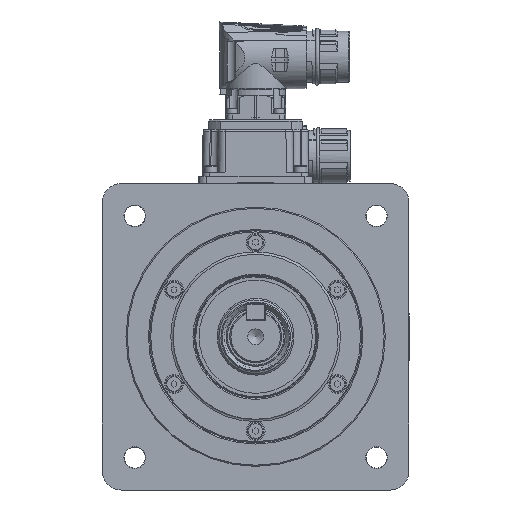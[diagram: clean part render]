
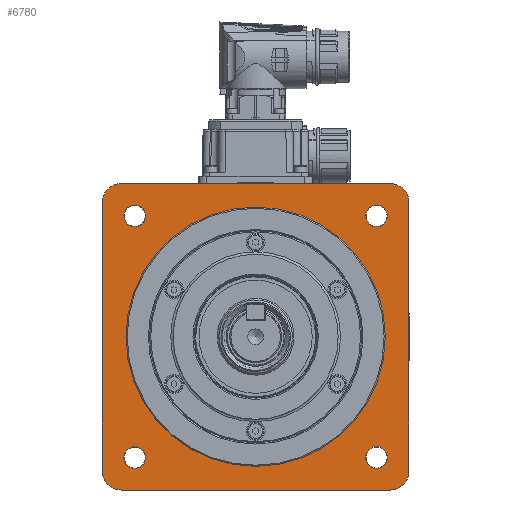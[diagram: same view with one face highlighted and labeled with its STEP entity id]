
A CAD part, front view. The second image highlights one B-rep face of the part: STEP entity #6780.
In plain terms, the highlighted planar face has unit normal (0, -1, 0).
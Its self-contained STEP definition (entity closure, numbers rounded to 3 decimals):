
#6780 = ADVANCED_FACE( '', ( #14795, #14796, #14797, #14798, #14799, #14800 ), #14801, .F. );
#14795 = FACE_BOUND( '', #32939, .T. );
#14796 = FACE_OUTER_BOUND( '', #32940, .T. );
#14797 = FACE_BOUND( '', #32941, .T. );
#14798 = FACE_BOUND( '', #32942, .T. );
#14799 = FACE_BOUND( '', #32943, .T. );
#14800 = FACE_BOUND( '', #32944, .T. );
#14801 = PLANE( '', #32945 );
#32939 = EDGE_LOOP( '', ( #54243 ) );
#32940 = EDGE_LOOP( '', ( #54244, #54245, #54246, #54247, #54248, #54249, #54250, #54251 ) );
#32941 = EDGE_LOOP( '', ( #54252 ) );
#32942 = EDGE_LOOP( '', ( #54253 ) );
#32943 = EDGE_LOOP( '', ( #54254 ) );
#32944 = EDGE_LOOP( '', ( #54255 ) );
#32945 = AXIS2_PLACEMENT_3D( '', #54256, #54257, #54258 );
#54243 = ORIENTED_EDGE( '', *, *, #65482, .F. );
#54244 = ORIENTED_EDGE( '', *, *, #66619, .F. );
#54245 = ORIENTED_EDGE( '', *, *, #64118, .T. );
#54246 = ORIENTED_EDGE( '', *, *, #60647, .F. );
#54247 = ORIENTED_EDGE( '', *, *, #64503, .T. );
#54248 = ORIENTED_EDGE( '', *, *, #66267, .F. );
#54249 = ORIENTED_EDGE( '', *, *, #66544, .T. );
#54250 = ORIENTED_EDGE( '', *, *, #66620, .F. );
#54251 = ORIENTED_EDGE( '', *, *, #64447, .T. );
#54252 = ORIENTED_EDGE( '', *, *, #62940, .F. );
#54253 = ORIENTED_EDGE( '', *, *, #65138, .F. );
#54254 = ORIENTED_EDGE( '', *, *, #59812, .F. );
#54255 = ORIENTED_EDGE( '', *, *, #62488, .F. );
#54256 = CARTESIAN_POINT( '', ( 0., -15.51, 55. ) );
#54257 = DIRECTION( '', ( 0., 1., 0. ) );
#54258 = DIRECTION( '', ( 0., 0., 1. ) );
#59812 = EDGE_CURVE( '', #70045, #70045, #70046, .F. );
#60647 = EDGE_CURVE( '', #71453, #71456, #71457, .F. );
#62488 = EDGE_CURVE( '', #74516, #74516, #74517, .F. );
#62940 = EDGE_CURVE( '', #75216, #75216, #75217, .F. );
#64118 = EDGE_CURVE( '', #76901, #71456, #76902, .T. );
#64447 = EDGE_CURVE( '', #77338, #77336, #77339, .T. );
#64503 = EDGE_CURVE( '', #71453, #77411, #77413, .T. );
#65138 = EDGE_CURVE( '', #78248, #78248, #78249, .F. );
#65482 = EDGE_CURVE( '', #78680, #78680, #78681, .T. );
#66267 = EDGE_CURVE( '', #79632, #77411, #79635, .F. );
#66544 = EDGE_CURVE( '', #79632, #79965, #79967, .T. );
#66619 = EDGE_CURVE( '', #76901, #77336, #80049, .F. );
#66620 = EDGE_CURVE( '', #77338, #79965, #80050, .F. );
#70045 = VERTEX_POINT( '', #85381 );
#70046 = CIRCLE( '', #85382, 4.6 );
#71453 = VERTEX_POINT( '', #88833 );
#71456 = VERTEX_POINT( '', #88837 );
#71457 = CIRCLE( '', #88838, 8. );
#74516 = VERTEX_POINT( '', #95620 );
#74517 = CIRCLE( '', #95621, 4.6 );
#75216 = VERTEX_POINT( '', #97046 );
#75217 = CIRCLE( '', #97047, 4.6 );
#76901 = VERTEX_POINT( '', #100961 );
#76902 = LINE( '', #100962, #100963 );
#77336 = VERTEX_POINT( '', #101990 );
#77338 = VERTEX_POINT( '', #101993 );
#77339 = LINE( '', #101994, #101995 );
#77411 = VERTEX_POINT( '', #102111 );
#77413 = LINE( '', #102114, #102115 );
#78248 = VERTEX_POINT( '', #104003 );
#78249 = CIRCLE( '', #104004, 4.6 );
#78680 = VERTEX_POINT( '', #104944 );
#78681 = CIRCLE( '', #104945, 55. );
#79632 = VERTEX_POINT( '', #106990 );
#79635 = CIRCLE( '', #106994, 8. );
#79965 = VERTEX_POINT( '', #107613 );
#79967 = LINE( '', #107616, #107617 );
#80049 = CIRCLE( '', #107788, 8. );
#80050 = CIRCLE( '', #107789, 8. );
#85381 = CARTESIAN_POINT( '', ( 51.265, -15.51, -46.665 ) );
#85382 = AXIS2_PLACEMENT_3D( '', #113274, #113275, #113276 );
#88833 = CARTESIAN_POINT( '', ( -57., -15.51, -65. ) );
#88837 = CARTESIAN_POINT( '', ( -65., -15.51, -57. ) );
#88838 = AXIS2_PLACEMENT_3D( '', #114268, #114269, #114270 );
#95620 = CARTESIAN_POINT( '', ( 51.265, -15.51, 55.866 ) );
#95621 = AXIS2_PLACEMENT_3D( '', #116487, #116488, #116489 );
#97046 = CARTESIAN_POINT( '', ( -51.265, -15.51, 55.866 ) );
#97047 = AXIS2_PLACEMENT_3D( '', #117018, #117019, #117020 );
#100961 = CARTESIAN_POINT( '', ( -65., -15.51, 57. ) );
#100962 = CARTESIAN_POINT( '', ( -65., -15.51, 65. ) );
#100963 = VECTOR( '', #118333, 1000. );
#101990 = CARTESIAN_POINT( '', ( -57., -15.51, 65. ) );
#101993 = CARTESIAN_POINT( '', ( 57., -15.51, 65. ) );
#101994 = CARTESIAN_POINT( '', ( 65., -15.51, 65. ) );
#101995 = VECTOR( '', #118669, 1000. );
#102111 = CARTESIAN_POINT( '', ( 57., -15.51, -65. ) );
#102114 = CARTESIAN_POINT( '', ( -65., -15.51, -65. ) );
#102115 = VECTOR( '', #118740, 1000. );
#104003 = CARTESIAN_POINT( '', ( -51.265, -15.51, -46.665 ) );
#104004 = AXIS2_PLACEMENT_3D( '', #119391, #119392, #119393 );
#104944 = CARTESIAN_POINT( '', ( 0., -15.51, -55. ) );
#104945 = AXIS2_PLACEMENT_3D( '', #119728, #119729, #119730 );
#106990 = CARTESIAN_POINT( '', ( 65., -15.51, -57. ) );
#106994 = AXIS2_PLACEMENT_3D( '', #120516, #120517, #120518 );
#107613 = CARTESIAN_POINT( '', ( 65., -15.51, 57. ) );
#107616 = CARTESIAN_POINT( '', ( 65., -15.51, -65. ) );
#107617 = VECTOR( '', #120775, 1000. );
#107788 = AXIS2_PLACEMENT_3D( '', #120835, #120836, #120837 );
#107789 = AXIS2_PLACEMENT_3D( '', #120838, #120839, #120840 );
#113274 = CARTESIAN_POINT( '', ( 51.265, -15.51, -51.265 ) );
#113275 = DIRECTION( '', ( 0., 1., 0. ) );
#113276 = DIRECTION( '', ( 0., 0., 1. ) );
#114268 = CARTESIAN_POINT( '', ( -57., -15.51, -57. ) );
#114269 = DIRECTION( '', ( 0., -1., 0. ) );
#114270 = DIRECTION( '', ( 0., 0., -1. ) );
#116487 = CARTESIAN_POINT( '', ( 51.265, -15.51, 51.265 ) );
#116488 = DIRECTION( '', ( 0., 1., 0. ) );
#116489 = DIRECTION( '', ( 0., 0., 1. ) );
#117018 = CARTESIAN_POINT( '', ( -51.265, -15.51, 51.265 ) );
#117019 = DIRECTION( '', ( 0., 1., 0. ) );
#117020 = DIRECTION( '', ( 0., 0., 1. ) );
#118333 = DIRECTION( '', ( 0., 0., -1. ) );
#118669 = DIRECTION( '', ( -1., 0., 0. ) );
#118740 = DIRECTION( '', ( 1., 0., 0. ) );
#119391 = CARTESIAN_POINT( '', ( -51.265, -15.51, -51.265 ) );
#119392 = DIRECTION( '', ( 0., 1., 0. ) );
#119393 = DIRECTION( '', ( 0., 0., 1. ) );
#119728 = CARTESIAN_POINT( '', ( 0., -15.51, 0. ) );
#119729 = DIRECTION( '', ( 0., -1., 0. ) );
#119730 = DIRECTION( '', ( 0., 0., -1. ) );
#120516 = CARTESIAN_POINT( '', ( 57., -15.51, -57. ) );
#120517 = DIRECTION( '', ( 0., -1., 0. ) );
#120518 = DIRECTION( '', ( 0., 0., -1. ) );
#120775 = DIRECTION( '', ( 0., 0., 1. ) );
#120835 = CARTESIAN_POINT( '', ( -57., -15.51, 57. ) );
#120836 = DIRECTION( '', ( 0., -1., 0. ) );
#120837 = DIRECTION( '', ( 0., 0., -1. ) );
#120838 = CARTESIAN_POINT( '', ( 57., -15.51, 57. ) );
#120839 = DIRECTION( '', ( 0., -1., 0. ) );
#120840 = DIRECTION( '', ( 0., 0., -1. ) );
